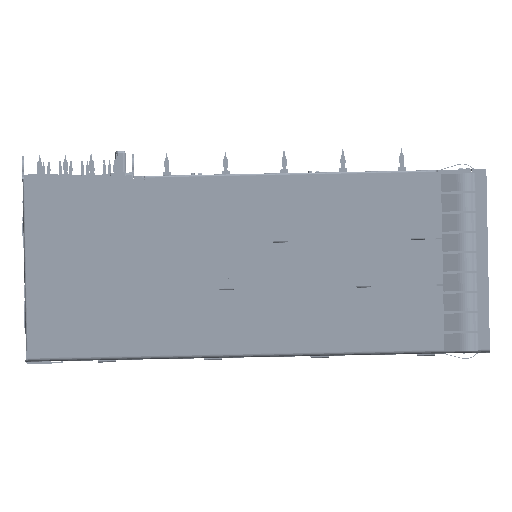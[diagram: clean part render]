
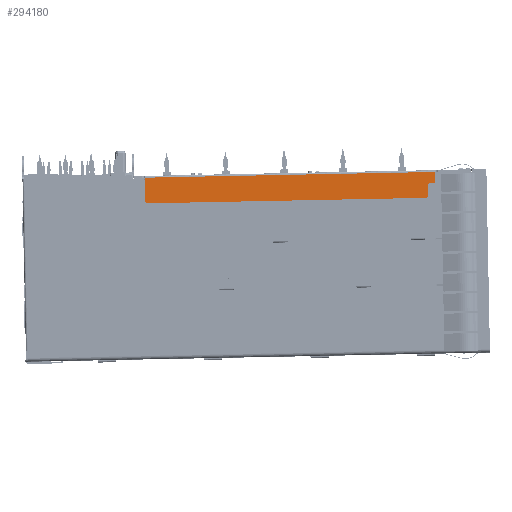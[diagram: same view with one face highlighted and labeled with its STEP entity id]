
A CAD part, left-side view. The second image highlights one B-rep face of the part: STEP entity #294180.
In plain terms, the highlighted planar face has unit normal (-1, 0, 0).
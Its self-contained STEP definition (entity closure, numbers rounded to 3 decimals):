
#100421=DIRECTION('',(0.,-0.02,
-1.));
#100422=VECTOR('',#100421,1.25);
#100423=CARTESIAN_POINT('',(0.45,-50.71,
24.344));
#100424=LINE('',#100423,#100422);
#100425=CARTESIAN_POINT('',(0.45,-50.485,23.089));
#100426=DIRECTION('',(1.,0.,0.));
#100427=DIRECTION('',(0.,-1.,0.02));
#100428=AXIS2_PLACEMENT_3D('',#100425,#100426,#100427);
#100430=DIRECTION('',(0.,1.,-0.02));
#100431=VECTOR('',#100430,0.5);
#100432=CARTESIAN_POINT('',(0.45,-50.49,22.839));
#100433=LINE('',#100432,#100431);
#100434=CARTESIAN_POINT('',(0.45,-49.995,22.579));
#100435=DIRECTION('',(-1.,0.,0.));
#100436=DIRECTION('',(0.,0.02,1.));
#100437=AXIS2_PLACEMENT_3D('',#100434,#100435,#100436);
#100439=DIRECTION('',(0.,-0.02,-1.));
#100440=VECTOR('',#100439,1.5);
#100441=CARTESIAN_POINT('',(0.45,-49.745,22.574));
#100442=LINE('',#100441,#100440);
#100443=CARTESIAN_POINT('',(0.45,-49.525,21.07));
#100444=DIRECTION('',(1.,0.,0.));
#100445=DIRECTION('',(0.,-1.,0.02));
#100446=AXIS2_PLACEMENT_3D('',#100443,#100444,#100445);
#100448=DIRECTION('',(0.,1.,-0.02));
#100449=VECTOR('',#100448,38.25);
#100450=CARTESIAN_POINT('',(0.45,-49.53,20.82));
#100451=LINE('',#100450,#100449);
#100452=DIRECTION('',(0.,0.02,1.));
#100453=VECTOR('',#100452,3.5);
#100454=CARTESIAN_POINT('',(0.45,-11.287,20.063));
#100455=LINE('',#100454,#100453);
#100456=DIRECTION('',(0.,1.,-0.02));
#100457=VECTOR('',#100456,39.5);
#100458=CARTESIAN_POINT('',(0.45,-50.71,
24.344));
#100459=LINE('',#100458,#100457);
#124471=CARTESIAN_POINT('',(0.45,-11.218,23.562));
#124472=VERTEX_POINT('',#124471);
#124473=CARTESIAN_POINT('',(0.45,-11.287,20.063));
#124474=VERTEX_POINT('',#124473);
#153478=CARTESIAN_POINT('',(0.45,-50.71,
24.344));
#153479=VERTEX_POINT('',#153478);
#153480=CARTESIAN_POINT('',(0.45,-50.735,23.094));
#153481=VERTEX_POINT('',#153480);
#153482=CARTESIAN_POINT('',(0.45,-50.49,22.839));
#153483=VERTEX_POINT('',#153482);
#153484=CARTESIAN_POINT('',(0.45,-49.99,22.829));
#153485=VERTEX_POINT('',#153484);
#153486=CARTESIAN_POINT('',(0.45,-49.745,22.574));
#153487=VERTEX_POINT('',#153486);
#153488=CARTESIAN_POINT('',(0.45,-49.775,21.074));
#153489=VERTEX_POINT('',#153488);
#153490=CARTESIAN_POINT('',(0.45,-49.53,20.82));
#153491=VERTEX_POINT('',#153490);
#294162=CARTESIAN_POINT('',(0.45,-30.999,22.203));
#294163=DIRECTION('',(1.,0.,0.));
#294164=DIRECTION('',(0.,-0.02,-1.));
#294165=AXIS2_PLACEMENT_3D('',#294162,#294163,#294164);
#294166=PLANE('',#294165);
#294168=ORIENTED_EDGE('',*,*,#294167,.F.);
#294169=ORIENTED_EDGE('',*,*,#294087,.T.);
#294170=ORIENTED_EDGE('',*,*,#294100,.T.);
#294171=ORIENTED_EDGE('',*,*,#294115,.T.);
#294172=ORIENTED_EDGE('',*,*,#294127,.T.);
#294173=ORIENTED_EDGE('',*,*,#294141,.T.);
#294174=ORIENTED_EDGE('',*,*,#294153,.T.);
#294176=ORIENTED_EDGE('',*,*,#294175,.T.);
#294177=ORIENTED_EDGE('',*,*,#175303,.T.);
#294178=EDGE_LOOP('',(#294168,#294169,#294170,#294171,#294172,#294173,#294174,
#294176,#294177));
#294179=FACE_OUTER_BOUND('',#294178,.F.);
#294180=ADVANCED_FACE('',(#294179),#294166,.F.);
#100429=CIRCLE('',#100428,0.25);
#100438=CIRCLE('',#100437,0.25);
#100447=CIRCLE('',#100446,0.25);
#175303=EDGE_CURVE('',#124474,#124472,#100455,.T.);
#294087=EDGE_CURVE('',#153479,#153481,#100424,.T.);
#294100=EDGE_CURVE('',#153481,#153483,#100429,.T.);
#294115=EDGE_CURVE('',#153483,#153485,#100433,.T.);
#294127=EDGE_CURVE('',#153485,#153487,#100438,.T.);
#294141=EDGE_CURVE('',#153487,#153489,#100442,.T.);
#294153=EDGE_CURVE('',#153489,#153491,#100447,.T.);
#294167=EDGE_CURVE('',#153479,#124472,#100459,.T.);
#294175=EDGE_CURVE('',#153491,#124474,#100451,.T.);
